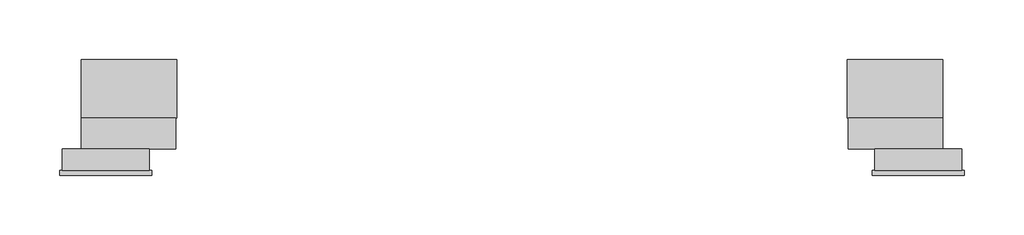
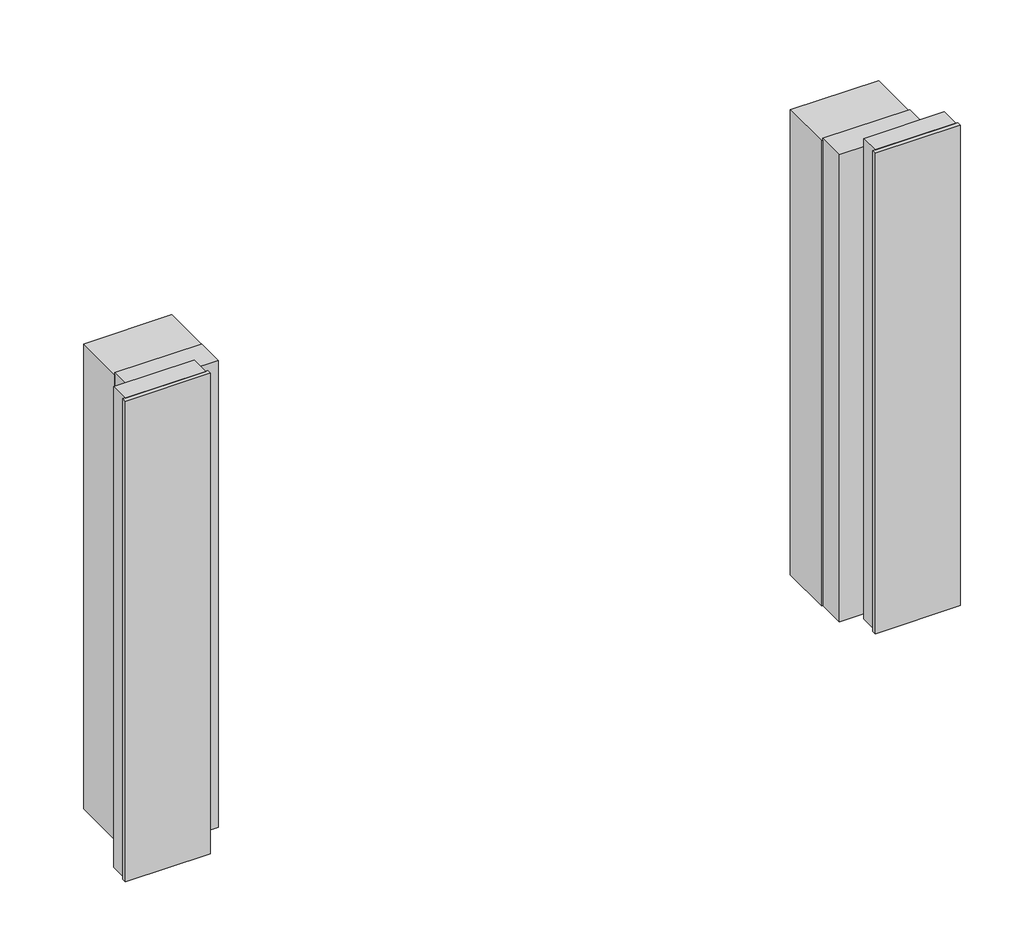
# Not in any storey: 1 proxy.
"""IFC4 building model written with IfcOpenShell, lengths in millimetres."""

from ifc_helpers import new_model, si_unit, origin, place, context, project, spatial, transform, mapped, element, save
from components import specialty_equipment_26bbb87a

model = new_model("IFC4")

# Units and contexts
model_context = context("Model", 3, world=origin())
ifc_project = project(units=[si_unit("LENGTHUNIT", "METRE", prefix="MILLI")], contexts=[model_context])

# Site, building
site = spatial("IfcSite", under=ifc_project)
building = spatial("IfcBuilding", under=site)

# Proxy
placement = place(None, origin())
specialty_equipment_shape = specialty_equipment_26bbb87a(model_context)
element("IfcBuildingElementProxy", 1, Name="11768890_USA_EBA2248_OBSW : 29992971_USA_11768890_EBA2248_OBSW", ObjectType="11768890_USA_EBA2248_OBSW : 29992971_USA_11768890_EBA2248_OBSW", at=placement, inside=building, context=model_context, shape_type="MappedRepresentation", body=[
    mapped(specialty_equipment_shape, transform((0.0, 0.0, 0.0), x_axis=(1.0, 0.0, 0.0), y_axis=(0.0, 1.0, 0.0), z_axis=(0.0, 0.0, 1.0))),
])

save(model, "model.ifc")
